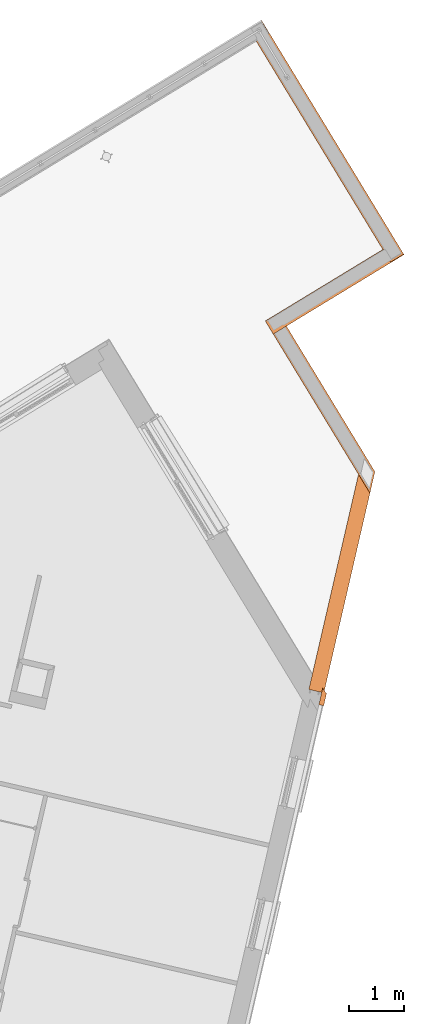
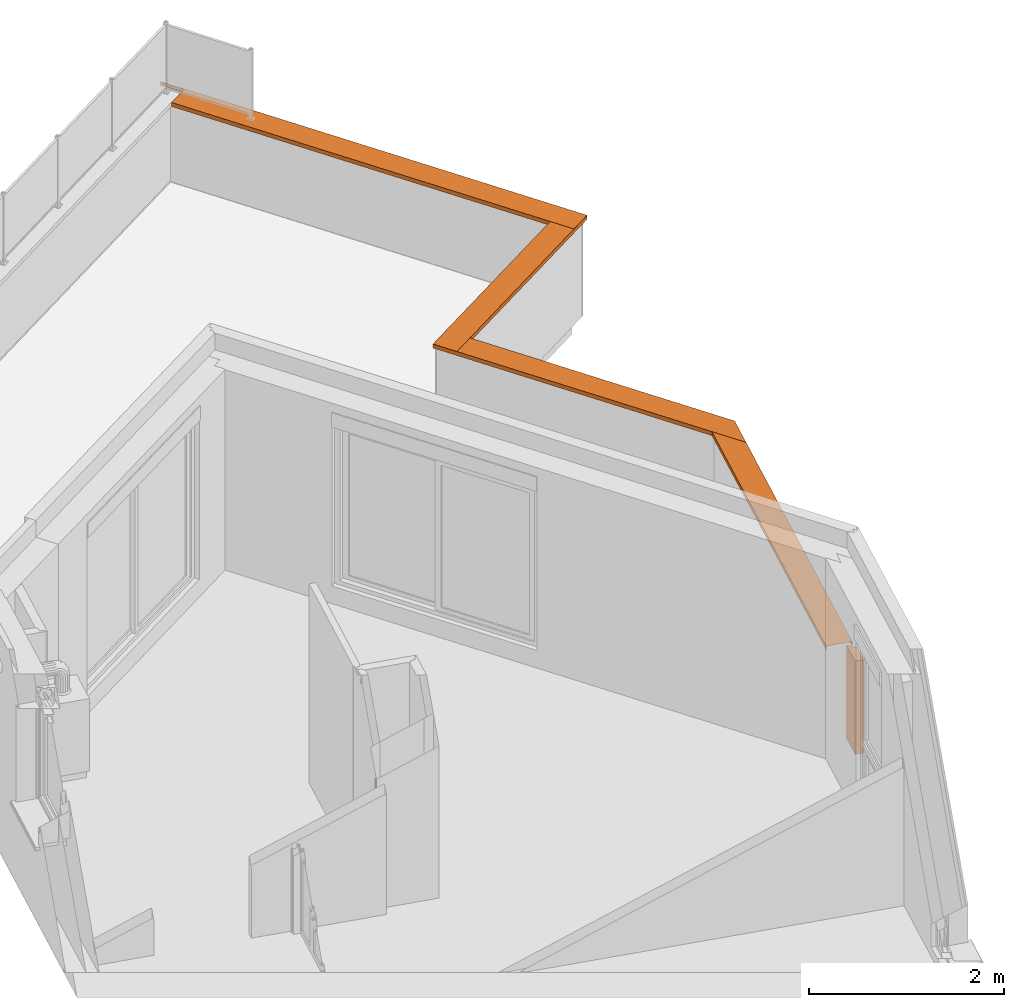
# One storey, part 91 of 91: 5 proxies.
"""IFC2X3 building model written with IfcOpenShell, lengths in metres."""

from ifc_helpers import new_model, entity, si_unit, converted_unit, derived_unit, money_unit, direction, frame, origin_with_axes, place, context, subcontext, project, spatial, faceted_brep, material, type_object, element, save


model = new_model("IFC2X3")

# Units and contexts
model_context = context("Model", 3, precision=1e-05, world=origin_with_axes(), true_north=direction((0.0, 1.0)))
body_context = subcontext(model_context, "Body", "Model", "MODEL_VIEW")
ifc_project = project(units=[si_unit("LENGTHUNIT", "METRE"), si_unit("AREAUNIT", "SQUARE_METRE"), si_unit("VOLUMEUNIT", "CUBIC_METRE"), converted_unit("PLANEANGLEUNIT", "DEGREE", entity("IfcPlaneAngleMeasure", 0.0174532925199), si_unit("PLANEANGLEUNIT", "RADIAN"), dimensions=[0, 0, 0, 0, 0, 0, 0]), si_unit("SOLIDANGLEUNIT", "STERADIAN"), money_unit("EUR"), converted_unit("TIMEUNIT", "Year", entity("IfcTimeMeasure", 31556926.0), si_unit("TIMEUNIT", "SECOND"), dimensions=[0, 0, 1, 0, 0, 0, 0]), si_unit("MASSUNIT", "GRAM", prefix="KILO"), si_unit("THERMODYNAMICTEMPERATUREUNIT", "DEGREE_CELSIUS"), si_unit("LUMINOUSINTENSITYUNIT", "LUMEN"), si_unit("ENERGYUNIT", "JOULE", prefix="MEGA"), derived_unit("THERMALCONDUCTANCEUNIT", [(si_unit("POWERUNIT", "WATT"), 1), (si_unit("LENGTHUNIT", "METRE"), -1), (si_unit("THERMODYNAMICTEMPERATUREUNIT", "KELVIN"), -1)]), derived_unit("SPECIFICHEATCAPACITYUNIT", [(si_unit("ENERGYUNIT", "JOULE"), 1), (si_unit("MASSUNIT", "GRAM", prefix="KILO"), -1), (si_unit("THERMODYNAMICTEMPERATUREUNIT", "KELVIN"), -1)]), derived_unit("MASSDENSITYUNIT", [(si_unit("MASSUNIT", "GRAM", prefix="KILO"), 1), (si_unit("VOLUMEUNIT", "CUBIC_METRE"), -1)])], contexts=[model_context])

# Site, building, storey
site_placement = place(None, origin_with_axes())
site = spatial("IfcSite", under=ifc_project, at=site_placement, Name="Site", CompositionType="ELEMENT")
building_placement = place(site_placement, origin_with_axes())
building = spatial("IfcBuilding", under=site, at=building_placement, Name="Bâtiment", CompositionType="ELEMENT")
storey_placement = place(building_placement, frame((0.0, 0.0, 5.44), z_axis=(0.0, 0.0, 1.0), x_axis=(1.0, 0.0, 0.0)))
storey = spatial("IfcBuildingStorey", under=building, at=storey_placement, Name="R+2", CompositionType="ELEMENT", Elevation=5.44)

# Proxies
ifc_material_1 = material(Name="Métal - Aluminium")
building_element_proxy_type_1 = type_object("IfcBuildingElementProxyType", Name="Couvertine Métal 280 x 50", PredefinedType="USERDEFINED")
proxy_1_placement = place(storey_placement, frame((2.87215114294, 21.9475164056, 1.253), z_axis=(0.0, 0.0, 1.0), x_axis=(-0.854539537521, -0.519386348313, 0.0)))
element("IfcBuildingElementProxy", 1, at=proxy_1_placement, inside=storey, type_object=building_element_proxy_type_1, material=ifc_material_1, Name="Couvertine métal laqué", ObjectType="CONSTRUCTION ELEMENT", context=body_context, shape_type="Brep", body=[
    faceted_brep([(2.73319757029, 0.0450013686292, -1.46180134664e-09), (2.73500531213, 0.0450013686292, -1.46180134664e-09), (2.73500531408, 0.0431936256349, 0.0), (2.73319757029, 0.0431936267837, -1.46180134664e-09), (2.73500531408, 0.0450013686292, 0.00199999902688), (2.45681031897, 0.0450013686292, -1.46180134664e-09), (2.45681031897, 0.0450013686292, -0.0399754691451), (2.45681031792, 0.0450013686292, -0.0442531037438), (2.46005860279, 0.0450013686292, -0.0442531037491), (2.45500257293, 0.0450013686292, -0.048), (-0.0450013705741, 0.0450013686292, -0.048), (-0.0399453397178, 0.0450013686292, -0.0442531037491), (-0.0431936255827, 0.0450013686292, -0.0442531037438), (-0.0431936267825, 0.0450013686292, -0.0399754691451), (-0.0431936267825, 0.0450013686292, -1.46180134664e-09), (0.23500136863, 0.0450013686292, -3.74129172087e-10), (0.23500136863, 0.0450013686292, 0.00199999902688), (2.73500531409, -0.233193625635, 0.0), (2.73500531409, -0.235001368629, 0.00199999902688), (2.73500531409, -0.235001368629, -0.048), (2.73500531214, -0.229945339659, -0.0442531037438), (2.73500531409, -0.233193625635, -0.0442531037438), (2.45681031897, 0.0431936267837, -1.46180134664e-09), (0.235001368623, -0.233193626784, -1.46180134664e-09), (0.23500136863, 0.0431936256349, -3.74129172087e-10), (2.45681031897, 0.0431936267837, -0.0399754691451), (2.45681031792, 0.043193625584, -0.0442531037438), (2.46005860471, 0.043193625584, -0.0442531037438), (2.46005860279, 0.0399453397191, -0.0442531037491), (2.46358856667, 0.036415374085, -0.0416371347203), (-0.0364153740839, 0.036415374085, -0.0416371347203), (-0.0399453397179, 0.0399453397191, -0.0442531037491), (-0.0399453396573, 0.043193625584, -0.0442531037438), (-0.0431936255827, 0.043193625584, -0.0442531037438), (-0.0431936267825, 0.0431936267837, -0.0399754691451), (-0.0431936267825, 0.0431936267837, -1.46180134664e-09), (0.235001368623, -0.235001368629, 0.00199999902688), (0.235001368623, -0.235001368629, -1.46180134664e-09), (0.235001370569, -0.235001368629, -0.048), (0.235001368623, -0.235001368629, -0.0399754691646), (0.235001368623, -0.235001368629, -0.0442531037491), (2.72966760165, -0.226415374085, -0.0416371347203), (2.73319756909, -0.229945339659, -0.0442531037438), (0.235001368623, -0.229945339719, -0.0442531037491), (0.233193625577, -0.229945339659, -0.0442531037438), (0.229663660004, -0.226415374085, -0.0416371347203), (2.73319756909, -0.233193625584, -0.0442531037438), (0.235001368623, -0.233193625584, -0.0442531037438), (0.235001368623, -0.233193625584, -0.0399754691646), (2.46258252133, 0.0374214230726, -0.0399754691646), (2.46358856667, 0.0396636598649, -0.0416371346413), (-0.0364153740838, 0.0396636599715, -0.0416371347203), (-0.0374214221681, 0.0374214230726, -0.0399754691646), (2.72742536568, -0.227421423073, -0.0399754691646), (0.233193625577, -0.233193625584, -0.0442531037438), (0.227421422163, -0.227421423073, -0.0399754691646)], [[[0, 1, 2, 3]], [[4, 1, 0, 5, 6, 7, 8, 9, 10, 11, 12, 13, 14, 15, 16]], [[17, 2, 1, 4, 18, 19, 20, 21]], [[22, 3, 2, 17, 23, 24]], [[5, 0, 3, 22]], [[22, 25, 6, 5]], [[6, 25, 26, 7]], [[27, 8, 7, 26]], [[8, 27, 28, 9]], [[9, 28, 29, 30, 31, 10]], [[31, 32, 11, 10]], [[12, 11, 32, 33]], [[13, 12, 33, 34]], [[14, 13, 34, 35]], [[35, 24, 15, 14]], [[36, 16, 15, 24, 23, 37]], [[36, 18, 4, 16]], [[38, 19, 18, 36, 37, 39, 40]], [[41, 42, 20, 19, 38, 43, 44, 45]], [[46, 21, 20, 42]], [[23, 17, 21, 46, 47, 48]], [[32, 26, 25, 22, 24, 35, 34, 33]], [[49, 50, 27, 26, 32, 51, 52]], [[28, 27, 50, 29]], [[30, 29, 49, 52]], [[30, 51, 32, 31]], [[37, 23, 48, 39]], [[39, 48, 47, 40]], [[47, 43, 38, 40]], [[53, 46, 42, 41]], [[47, 54, 44, 43]], [[55, 45, 44, 54]], [[55, 53, 41, 45]], [[47, 46, 53, 55, 54]], [[49, 29, 50]], [[52, 51, 30]]]),
])
proxy_2_placement = place(storey_placement, frame((0.32715847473, 26.1347594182, 1.253), z_axis=(0.0, 0.0, 1.0), x_axis=(0.519386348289, -0.854539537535, 0.0)))
element("IfcBuildingElementProxy", 2, at=proxy_2_placement, inside=storey, type_object=building_element_proxy_type_1, material=ifc_material_1, Name="Couvertine métal laqué", ObjectType="CONSTRUCTION ELEMENT", context=body_context, shape_type="Brep", body=[
    faceted_brep([(0.235001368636, -0.235001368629, -0.0399754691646), (0.235001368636, -0.235001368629, -0.0442531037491), (0.235001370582, -0.235001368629, -0.048), (4.66499778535, -0.235001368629, -0.048), (4.67005381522, -0.235001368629, -0.0442531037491), (4.66680553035, -0.235001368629, -0.0442531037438), (4.6668055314, -0.235001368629, -0.0399754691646), (4.6668055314, -0.235001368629, -1.46180134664e-09), (4.94319278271, -0.235001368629, -1.46180134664e-09), (4.94500052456, -0.235001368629, -1.46180134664e-09), (4.9450005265, -0.235001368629, 0.00199999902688), (0.235001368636, -0.235001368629, 0.00199999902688), (0.235001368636, -0.235001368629, -1.46180134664e-09), (0.235001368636, -0.233193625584, -0.0399754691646), (0.235001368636, -0.233193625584, -0.0442531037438), (0.235001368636, -0.229945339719, -0.0442531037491), (0.233193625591, -0.229945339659, -0.0442531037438), (0.229663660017, -0.226415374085, -0.0416371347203), (4.6735837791, -0.226415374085, -0.0416371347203), (4.67005381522, -0.229945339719, -0.0442531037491), (4.67005381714, -0.233193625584, -0.0442531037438), (4.66680553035, -0.233193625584, -0.0442531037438), (4.6668055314, -0.233193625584, -0.0399754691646), (4.6668055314, -0.233193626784, -1.46180134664e-09), (4.94319278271, -0.233193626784, -1.46180134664e-09), (4.9450005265, -0.233193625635, 0.0), (4.9450005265, 0.0431936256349, 0.0), (4.9450005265, 0.0431936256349, -0.0442531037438), (4.94500052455, 0.0399453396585, -0.0442531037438), (4.9450005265, 0.0450013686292, -0.048), (4.9450005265, 0.0450013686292, 0.00199999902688), (0.235001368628, 0.0450013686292, 0.00199999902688), (0.235001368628, 0.0431936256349, 0.0), (0.235001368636, -0.233193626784, -1.46180134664e-09), (0.235001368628, 0.0450013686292, -3.74129172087e-10), (0.233193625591, -0.233193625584, -0.0442531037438), (0.227421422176, -0.227421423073, -0.0399754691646), (4.67257773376, -0.227421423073, -0.0399754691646), (4.6735837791, -0.229663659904, -0.0416371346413), (-0.043193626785, 0.0431936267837, -1.46180134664e-09), (-0.043193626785, 0.0431936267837, -0.0399754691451), (-0.0431936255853, 0.043193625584, -0.0442531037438), (-0.0399453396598, 0.043193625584, -0.0442531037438), (4.94319278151, 0.043193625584, -0.0442531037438), (4.94319278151, 0.0399453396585, -0.0442531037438), (4.93966281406, 0.0364153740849, -0.0416371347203), (-0.036415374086, 0.036415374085, -0.0416371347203), (-0.0399453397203, 0.0399453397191, -0.0442531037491), (-0.0450013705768, 0.0450013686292, -0.048), (-0.0399453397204, 0.0450013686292, -0.0442531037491), (-0.0431936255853, 0.0450013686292, -0.0442531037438), (-0.0431936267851, 0.0450013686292, -0.0399754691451), (-0.0431936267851, 0.0450013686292, -1.46180134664e-09), (-0.0364153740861, 0.0396636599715, -0.0416371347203), (-0.0374214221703, 0.0374214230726, -0.0399754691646), (4.93742057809, 0.0374214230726, -0.0399754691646)], [[[0, 1, 2, 3, 4, 5, 6, 7, 8, 9, 10, 11, 12]], [[13, 14, 1, 0]], [[2, 1, 14, 15]], [[3, 2, 15, 16, 17, 18, 19]], [[19, 20, 4, 3]], [[5, 4, 20, 21]], [[6, 5, 21, 22]], [[7, 6, 22, 23]], [[23, 24, 8, 7]], [[9, 8, 24, 25]], [[9, 25, 26, 27, 28, 29, 30, 10]], [[31, 11, 10, 30]], [[32, 33, 12, 11, 31, 34]], [[33, 13, 0, 12]], [[21, 14, 13, 33, 23, 22]], [[14, 35, 16, 15]], [[17, 16, 35, 36]], [[18, 17, 36, 37]], [[38, 20, 19, 18]], [[36, 35, 14, 21, 20, 38, 37]], [[24, 23, 33, 32, 26, 25]], [[32, 39, 40, 41, 42, 43, 27, 26]], [[43, 44, 28, 27]], [[45, 46, 47, 48, 29, 28, 44]], [[49, 50, 51, 52, 34, 31, 30, 29, 48]], [[34, 52, 39, 32]], [[37, 38, 18]], [[51, 40, 39, 52]], [[51, 50, 41, 40]], [[42, 41, 50, 49]], [[42, 53, 54, 55, 43]], [[45, 44, 43, 55]], [[55, 54, 46, 45]], [[42, 47, 46, 53]], [[48, 47, 42, 49]], [[54, 53, 46]]]),
])
proxy_3_placement = place(storey_placement, frame((0.735798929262, 20.6490484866, 1.253), z_axis=(0.0, 0.0, 1.0), x_axis=(0.519386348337, -0.854539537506, 0.0)))
element("IfcBuildingElementProxy", 3, at=proxy_3_placement, inside=storey, type_object=building_element_proxy_type_1, material=ifc_material_1, Name="Couvertine métal laqué", ObjectType="CONSTRUCTION ELEMENT", context=body_context, shape_type="Brep", body=[
    faceted_brep([(-0.233193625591, -0.233193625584, -0.0442531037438), (-0.229945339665, -0.233193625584, -0.0442531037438), (-0.229945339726, -0.235001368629, -0.0442531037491), (-0.233193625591, -0.235001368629, -0.0442531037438), (-0.233193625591, -0.233193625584, -0.0399754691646), (-0.23319362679, -0.233193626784, -1.46180134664e-09), (0.0450013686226, -0.233193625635, 0.0), (3.02681478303, -0.233193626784, -1.46180134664e-09), (3.0268147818, -0.233193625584, -0.0399754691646), (3.0268147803, -0.233193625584, -0.0442531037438), (-0.235001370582, -0.235001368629, -0.048), (-0.229945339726, -0.229945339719, -0.0442531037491), (3.42708609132, -0.235001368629, 0.00199999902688), (0.0450013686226, -0.235001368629, 0.00199999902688), (0.0450013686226, -0.235001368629, -3.74129172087e-10), (-0.23319362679, -0.235001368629, -1.46180134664e-09), (-0.233193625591, -0.235001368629, -0.0399754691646), (3.0260791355, -0.235001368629, -0.048), (3.03332014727, -0.235001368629, -0.0442531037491), (3.02866810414, -0.235001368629, -0.0442531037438), (3.02866810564, -0.235001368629, -0.0399754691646), (3.02866810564, -0.235001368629, -1.46180134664e-09), (3.4244971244, -0.235001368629, -1.46180134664e-09), (3.42708608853, -0.235001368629, -1.46180134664e-09), (3.42264380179, -0.233193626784, -1.46180134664e-09), (0.0450013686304, 0.0431936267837, -1.46180134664e-09), (3.1418766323, 0.0431936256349, 0.0), (3.42523276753, -0.233193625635, 0.0), (-0.227421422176, -0.227421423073, -0.0399754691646), (-0.226415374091, -0.22966366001, -0.0416371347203), (3.03146682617, -0.233193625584, -0.0442531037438), (3.03290330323, -0.229663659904, -0.0416371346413), (3.02916372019, -0.227421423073, -0.0399754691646), (-0.226415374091, -0.226415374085, -0.0416371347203), (3.02957311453, -0.226415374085, -0.0416371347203), (3.02813663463, -0.229945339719, -0.0442531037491), (0.0450013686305, 0.0450013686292, 0.00199999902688), (3.14002330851, 0.0450013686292, 0.00199999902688), (0.0450013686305, 0.0450013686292, -1.46180134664e-09), (3.1418766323, 0.0431936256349, -0.0442531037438), (3.14520681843, 0.0399453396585, -0.0442531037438), (3.14002330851, 0.0450013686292, -0.048), (0.0450013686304, 0.0431936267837, -0.0399754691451), (0.0450013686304, 0.043193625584, -0.0442531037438), (3.13928766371, 0.043193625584, -0.0442531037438), (0.0450013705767, 0.0450013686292, -0.048), (0.0450013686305, 0.0450013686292, -0.0442531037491), (0.0450013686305, 0.0450013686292, -0.0399754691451), (3.14261785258, 0.0399453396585, -0.0442531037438), (3.14118136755, 0.036415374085, -0.0416371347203), (0.0396636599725, 0.036415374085, -0.0416371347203), (0.0431936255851, 0.0399453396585, -0.0442531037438), (0.0450013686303, 0.0399453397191, -0.0442531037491), (0.0431936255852, 0.043193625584, -0.0442531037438), (0.0374214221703, 0.0374214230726, -0.0399754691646), (3.13693872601, 0.0374214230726, -0.0399754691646)], [[[0, 1, 2, 3]], [[4, 5, 6, 7, 8, 9, 1, 0]], [[10, 2, 1, 11]], [[12, 13, 14, 15, 16, 3, 2, 10, 17, 18, 19, 20, 21, 22, 23]], [[16, 4, 0, 3]], [[5, 4, 16, 15]], [[15, 14, 6, 5]], [[24, 7, 6, 25, 26, 27]], [[7, 21, 20, 8]], [[8, 20, 19, 9]], [[28, 29, 1, 9, 30, 31, 32]], [[11, 1, 29, 33]], [[10, 11, 33, 34, 35, 17]], [[36, 13, 12, 37]], [[6, 14, 13, 36, 38, 25]], [[30, 18, 17, 35]], [[9, 19, 18, 30]], [[22, 21, 7, 24]], [[23, 22, 24, 27]], [[12, 23, 27, 26, 39, 40, 41, 37]], [[25, 42, 43, 44, 39, 26]], [[28, 33, 29]], [[34, 31, 30, 35]], [[32, 31, 34]], [[34, 33, 28, 32]], [[41, 45, 46, 47, 38, 36, 37]], [[47, 42, 25, 38]], [[44, 48, 40, 39]], [[48, 49, 50, 51, 52, 45, 41, 40]], [[46, 43, 42, 47]], [[43, 53, 54, 55, 44]], [[46, 45, 52, 43]], [[55, 49, 48, 44]], [[54, 50, 49, 55]], [[53, 51, 50, 54]], [[43, 52, 51, 53]]]),
])
proxy_4_placement = place(storey_placement, frame((2.35717273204, 17.9814234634, 1.253), z_axis=(0.0, 0.0, 1.0), x_axis=(-0.224876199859, -0.974387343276, 0.0)))
element("IfcBuildingElementProxy", 4, at=proxy_4_placement, inside=storey, type_object=building_element_proxy_type_1, material=ifc_material_1, Name="Couvertine métal laqué", ObjectType="CONSTRUCTION ELEMENT", context=body_context, shape_type="Brep", body=[
    faceted_brep([(0.0967893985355, -0.226415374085, -0.0416371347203), (4.10765136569, -0.226415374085, -0.0416371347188), (4.10765136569, -0.235001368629, -0.048), (0.0956313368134, -0.235001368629, -0.048), (0.10081484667, -0.229945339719, -0.0442531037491), (0.0982258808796, -0.229945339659, -0.0442531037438), (0.0925467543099, -0.227421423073, -0.0399754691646), (4.10765136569, -0.227421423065, -0.0399754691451), (4.10765136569, -0.233193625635, 0.0), (4.10765136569, 0.0431936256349, 0.0), (4.10765136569, 0.0431936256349, -0.0442531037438), (4.10765136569, 0.0374214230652, -0.0399754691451), (4.10765136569, 0.036415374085, -0.0416371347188), (4.10765136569, 0.0450013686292, -0.048), (4.10765136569, 0.0450013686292, 0.002), (4.10765136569, -0.235001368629, 0.002), (4.10765136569, -0.233193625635, -0.0442531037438), (0.0956313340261, -0.235001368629, -0.0442531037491), (0.0956313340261, -0.235001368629, 0.00199999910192), (0.0956313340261, -0.235001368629, -1.46180134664e-09), (0.0956313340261, -0.235001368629, -0.0399754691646), (0.0974846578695, -0.233193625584, -0.0442531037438), (0.0948956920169, -0.233193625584, -0.0442531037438), (0.380840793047, 0.0431936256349, -3.74129172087e-10), (0.0974846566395, -0.233193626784, -1.46180134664e-09), (-0.0129251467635, 0.043193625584, -0.0442531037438), (-0.0175771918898, 0.0431936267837, -1.46180134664e-09), (-0.0175771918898, 0.0431936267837, -0.0399754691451), (-0.0175771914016, 0.043193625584, -0.0442531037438), (-0.0152282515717, 0.0374214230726, -0.0399754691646), (-0.0114886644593, 0.0396636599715, -0.0416371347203), (-0.0148188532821, 0.036415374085, -0.0416371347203), (-0.0183128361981, 0.0450013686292, -0.048), (-0.0162553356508, 0.0399453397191, -0.0442531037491), (0.382694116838, 0.0450013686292, 0.00199999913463), (-0.0110718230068, 0.0450013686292, -0.0442531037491), (-0.0157238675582, 0.0450013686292, -0.0442531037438), (-0.0157238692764, 0.0450013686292, -0.0399754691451), (-0.0157238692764, 0.0450013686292, -1.46180134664e-09), (0.382694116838, 0.0450013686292, -3.74129172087e-10), (0.0974846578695, -0.233193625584, -0.0399754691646)], [[[0, 1, 2, 3, 4, 5]], [[6, 7, 1, 0]], [[8, 9, 10, 11, 12, 13, 14, 15, 2, 1, 7, 16]], [[17, 3, 2, 15, 18, 19, 20]], [[3, 17, 21, 4]], [[22, 5, 4, 21]], [[6, 0, 5, 22]], [[21, 16, 7, 6, 22]], [[23, 9, 8, 24]], [[25, 10, 9, 23, 26, 27, 28]], [[29, 11, 10, 25, 30]], [[31, 12, 11, 29]], [[32, 13, 12, 31, 33]], [[34, 14, 13, 32, 35, 36, 37, 38, 39]], [[18, 15, 14, 34]], [[24, 8, 16, 21, 40]], [[24, 19, 18, 34, 39, 23]], [[40, 20, 19, 24]], [[21, 17, 20, 40]], [[26, 23, 39, 38]], [[38, 37, 27, 26]], [[37, 36, 28, 27]], [[36, 35, 25, 28]], [[25, 33, 31, 30]], [[29, 30, 31]], [[33, 25, 35, 32]]]),
])
ifc_material_2 = material(Name="Finition ext - Bardage bois")
building_element_proxy_type_2 = type_object("IfcBuildingElementProxyType", Name="Finition ext - Bardage bois", PredefinedType="NOTDEFINED")
proxy_5_placement = place(storey_placement, frame((1.38718585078, 13.7562412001, -0.21), z_axis=(0.0, 0.0, 1.0), x_axis=(1.0, 0.0, 0.0)))
element("IfcBuildingElementProxy", 5, at=proxy_5_placement, inside=storey, type_object=building_element_proxy_type_2, material=ifc_material_2, Name="Forme-007", context=body_context, shape_type="Brep", body=[
    faceted_brep([(0.0, 0.0, 1.37828589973), (0.0, 0.0, 0.21), (0.0876948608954, -0.0202388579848, 0.21), (0.0876948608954, -0.0202388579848, 1.37828589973), (0.0692285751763, 0.299966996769, 1.37828589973), (0.0692285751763, 0.299966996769, 0.21), (0.126158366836, 0.213126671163, 0.21), (0.140774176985, 0.209753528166, 0.21), (0.140774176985, 0.209753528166, 1.37828589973), (0.126158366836, 0.213126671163, 1.37828589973)], [[[0, 1, 2, 3]], [[1, 0, 4, 5]], [[1, 5, 6, 7, 2]], [[3, 2, 7, 8]], [[4, 0, 3, 8, 9]], [[5, 4, 9, 6]], [[6, 9, 8, 7]]]),
])

save(model, "model.ifc")
